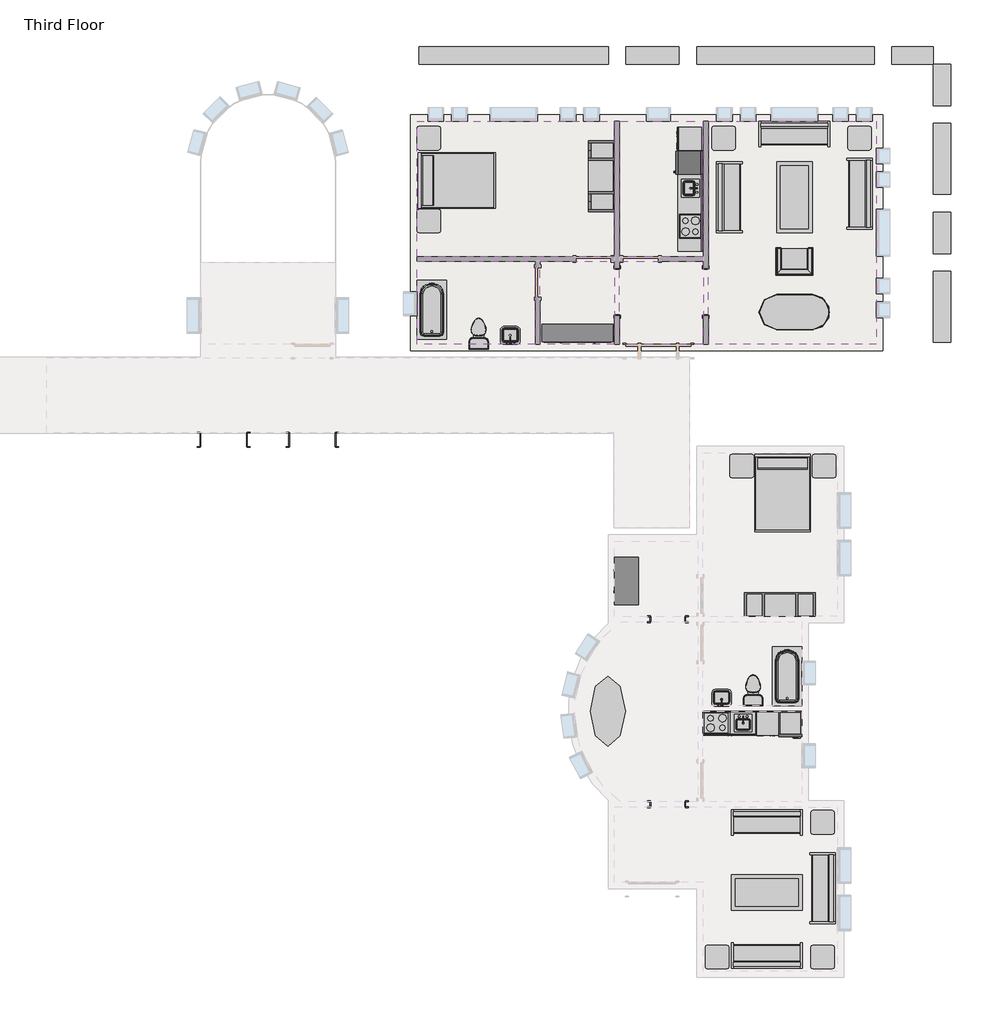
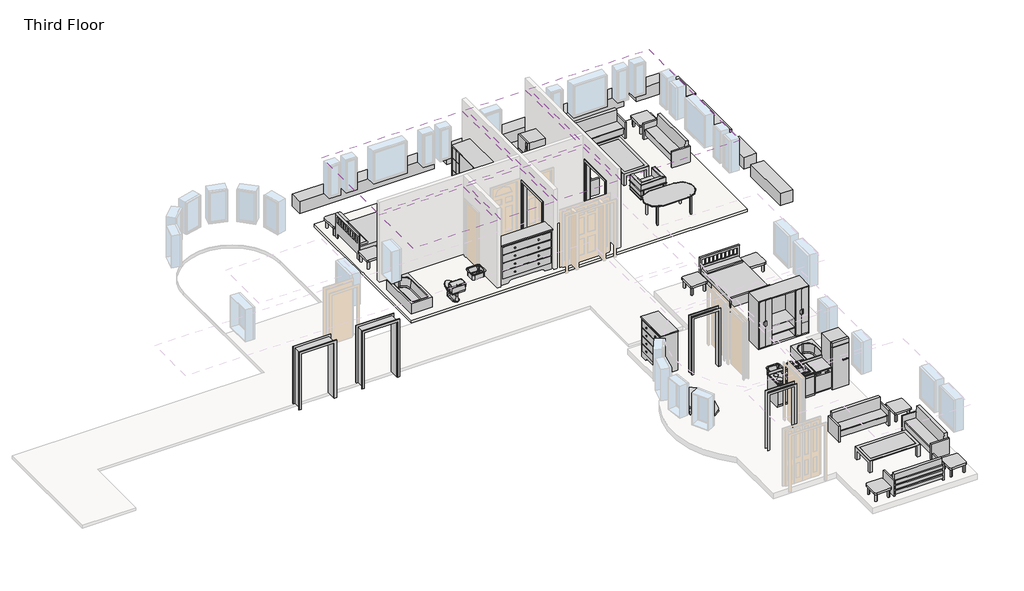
# One storey, part 2 of 2: 28 furniture elements, 14 proxies, 8 flow terminals, 6 coverings, 2 beams, 1 slab.
"""IFC4 building model written with IfcOpenShell, lengths in millimetres."""

from ifc_helpers import new_model, si_unit, frame, origin, place, context, project, spatial, polyline, outline, extrude, transform, mapped, element, save
from components import proxy_dfcd9396, proxy_3c49123c, proxy_7a545507, m_cook_top_4_unit2_0615_x_500mm_249f3515, m_dishwasher_610_x_610_x_875mm_54ecfc4c, m_kitchenette_medium_1372mm_e05c6bec, m_passage_opening_cased_0915_x_2134mm_b7ef4dee, m_refrigerator_600_x_660mm_a466bf94, proxy_f44482cc, proxy_c3589814, proxy_ec3341c2, m_sink_kitchen_island_450_x_450mm_f969cf2d, m_sink_vanity_square_500_x_440mm_1e229b74, m_toilet_domestic_3d_m_toilet_domestic_3d_5cb52bd4, m_toilet_domestic_3d_m_toilet_domestic_3d_183bbd19, m_tub_rectangular_3d_m_tub_rectangular_3d_3da3e62d, flow_terminal_41332a36, flow_terminal_62a433f7, toilet_domestic_3d_toilet_domestic_3d_f7549cf7, tub_rectangular_3d_tub_rectangular_3d_15036965, furniture_096e7f55, chair_corbu_chair_corbu_2764bdef, furniture_6db689a5, furniture_7c473f12, furniture_cf0b6580, m_counter_top_w_sink_hole_600mm_depth_08c4f679, m_dresser_1220_x_1525_x_0610mm_18e1f140, m_entertainment_center_1830_x_1830_x_0610mm_f77a9b93, m_sofa_1830mm_f9e8a66b, m_table_coffee_0915_x_1830_x_0457mm_134cd960, m_table_ellipse_1800_x_900mm_fd46d5a5, m_table_end_0610_x_0160mm_cb6ea12e, furniture_a4ffab56, furniture_cd93a443, furniture_2c34a4f9, furniture_3a588284

model = new_model("IFC4")

# Units and contexts
model_context = context("Model", 3, world=origin())
ifc_project = project(units=[si_unit("LENGTHUNIT", "METRE", prefix="MILLI")], contexts=[model_context])

# Site, building, storey
site = spatial("IfcSite", under=ifc_project)
building = spatial("IfcBuilding", under=site)
storey = spatial("IfcBuildingStorey", under=building, Name="Third Floor", Elevation=6096.0)

# Beams
placement = place(None, origin())
element("IfcBeam", 1, ObjectType="Concrete-Rectangular Beam : 18 x 18", at=placement, inside=storey, context=model_context, shape_type="SweptSolid", body=[
    extrude(outline(polyline([(2093.9410437, 12198.8316867), (2093.9410437, 11741.6316867), (1027.1410437, 11741.6316867), (1027.1410437, 12198.8316867), (2093.9410437, 12198.8316867)])), frame((0.0, 0.0, 5638.8), z_axis=(0.0, 0.0, 1.0), x_axis=(1.0, 0.0, 0.0)), (0.0, 0.0, 1.0), 457.2),
    extrude(outline(polyline([(-11164.8589563, 11741.6316867), (-11164.8589563, 12198.8316867), (-6288.0589563, 12198.8316867), (-6288.0589563, 11741.6316867), (-11164.8589563, 11741.6316867)])), frame((0.0, 0.0, 5638.8), z_axis=(0.0, 0.0, 1.0), x_axis=(1.0, 0.0, 0.0)), (0.0, 0.0, 1.0), 457.2),
    extrude(outline(polyline([(569.9410437, 12198.8316867), (569.9410437, 11741.6316867), (-4002.0589563, 11741.6316867), (-4002.0589563, 12198.8316867), (569.9410437, 12198.8316867)])), frame((0.0, 0.0, 5638.8), z_axis=(0.0, 0.0, 1.0), x_axis=(1.0, 0.0, 0.0)), (0.0, 0.0, 1.0), 457.2),
    extrude(outline(polyline([(-4459.2589563, 12198.8316867), (-4459.2589563, 11741.6316867), (-5830.8589563, 11741.6316867), (-5830.8589563, 12198.8316867), (-4459.2589563, 12198.8316867)])), frame((0.0, 0.0, 5638.8), z_axis=(0.0, 0.0, 1.0), x_axis=(1.0, 0.0, 0.0)), (0.0, 0.0, 1.0), 457.2),
])
element("IfcBeam", 2, ObjectType="Concrete-Rectangular Beam : 18 x 18", at=placement, inside=storey, context=model_context, shape_type="SweptSolid", body=[
    extrude(outline(polyline([(2093.9410437, 11741.6316867), (2551.1410437, 11741.6316867), (2551.1410437, 10674.8316867), (2093.9410437, 10674.8316867), (2093.9410437, 11741.6316867)])), frame((0.0, 0.0, 5638.8), z_axis=(0.0, 0.0, 1.0), x_axis=(1.0, 0.0, 0.0)), (0.0, 0.0, 1.0), 457.2),
    extrude(outline(polyline([(2551.1410437, 4578.8316867), (2093.9410437, 4578.8316867), (2093.9410437, 6407.6316867), (2551.1410437, 6407.6316867), (2551.1410437, 4578.8316867)])), frame((0.0, 0.0, 5638.8), z_axis=(0.0, 0.0, 1.0), x_axis=(1.0, 0.0, 0.0)), (0.0, 0.0, 1.0), 457.2),
    extrude(outline(polyline([(2093.9410437, 10217.6316867), (2551.1410437, 10217.6316867), (2551.1410437, 8388.8316867), (2093.9410437, 8388.8316867), (2093.9410437, 10217.6316867)])), frame((0.0, 0.0, 5638.8), z_axis=(0.0, 0.0, 1.0), x_axis=(1.0, 0.0, 0.0)), (0.0, 0.0, 1.0), 457.2),
    extrude(outline(polyline([(2093.9410437, 7931.6316867), (2551.1410437, 7931.6316867), (2551.1410437, 6864.8316867), (2093.9410437, 6864.8316867), (2093.9410437, 7931.6316867)])), frame((0.0, 0.0, 5638.8), z_axis=(0.0, 0.0, 1.0), x_axis=(1.0, 0.0, 0.0)), (0.0, 0.0, 1.0), 457.2),
])

# Proxies
proxy_shape = proxy_dfcd9396(model_context)
element("IfcBuildingElementProxy", 3, Name="Cook Top-4 Unit2 : 22\" x 20\"", ObjectType="Cook Top-4 Unit2 : 22\" x 20\"", at=placement, inside=storey, context=model_context, shape_type="MappedRepresentation", body=[
    mapped(proxy_shape, transform((-4167.1589563, 7568.5224391, 6096.0), x_axis=(0.0, 1.0000000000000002, 0.0), y_axis=(-1.0000000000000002, 0.0, 0.0), z_axis=(0.0, 0.0, 1.0))),
])
proxy_2_shape = proxy_3c49123c(model_context)
element("IfcBuildingElementProxy", 4, Name="Dishwasher : 24\" x 24\" x 34\"", ObjectType="Dishwasher : 24\" x 24\" x 34\"", at=placement, inside=storey, context=model_context, shape_type="MappedRepresentation", body=[
    mapped(proxy_2_shape, transform((-4459.0085211, 9434.1049706, 6096.0), x_axis=(0.0, 1.0000000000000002, 0.0), y_axis=(-1.0000000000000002, 0.0, 0.0), z_axis=(0.0, 0.0, 1.0))),
])
proxy_3_shape = proxy_7a545507(model_context)
element("IfcBuildingElementProxy", 5, Name="Kitchenette - Medium : 8'6\"", ObjectType="Kitchenette - Medium : 8'6\"", at=placement, inside=storey, context=model_context, shape_type="MappedRepresentation", body=[
    mapped(proxy_3_shape, transform((-3862.3589563, 8197.4847342, 6096.0), x_axis=(0.0, 1.0000000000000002, 0.0), y_axis=(-1.0000000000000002, 0.0, 0.0), z_axis=(0.0, 0.0, 1.0))),
])
m_cook_top_4_unit2_0615_x_500mm_shape = m_cook_top_4_unit2_0615_x_500mm_249f3515(model_context)
element("IfcBuildingElementProxy", 6, Name="M_Cook Top-4 Unit2 : 0615 x 500mm", ObjectType="M_Cook Top-4 Unit2 : 0615 x 500mm", at=placement, inside=storey, context=model_context, shape_type="MappedRepresentation", body=[
    mapped(m_cook_top_4_unit2_0615_x_500mm_shape, transform((-3495.1714563, -5234.2683133, 6096.0), x_axis=(1.0, 0.0, 0.0), y_axis=(0.0, 1.0, 0.0), z_axis=(0.0, 0.0, 1.0))),
])
m_dishwasher_610_x_610_x_875mm_shape = m_dishwasher_610_x_610_x_875mm_54ecfc4c(model_context)
element("IfcBuildingElementProxy", 7, Name="M_Dishwasher : 610 x 610 x 875mm", ObjectType="M_Dishwasher : 610 x 610 x 875mm", at=placement, inside=storey, context=model_context, shape_type="MappedRepresentation", body=[
    mapped(m_dishwasher_610_x_610_x_875mm_shape, transform((-2579.6889248, -5500.9178781, 6096.0), x_axis=(1.0, 0.0, 0.0), y_axis=(0.0, 1.0, 0.0), z_axis=(0.0, 0.0, 1.0))),
])
m_kitchenette_medium_1372mm_shape = m_kitchenette_medium_1372mm_e05c6bec(model_context)
element("IfcBuildingElementProxy", 8, Name="M_Kitchenette - Medium : 1372mm", ObjectType="M_Kitchenette - Medium : 1372mm", at=placement, inside=storey, context=model_context, shape_type="MappedRepresentation", body=[
    mapped(m_kitchenette_medium_1372mm_shape, transform((-3170.9091612, -4929.2683133, 6096.0), x_axis=(1.0, 0.0, 0.0), y_axis=(0.0, 1.0, 0.0), z_axis=(0.0, 0.0, 1.0))),
])
m_passage_opening_cased_0915_x_2134mm_shape = m_passage_opening_cased_0915_x_2134mm_b7ef4dee(model_context)
element("IfcBuildingElementProxy", 9, Name="M_Passage Opening-Cased : 0915 x 2134mm", ObjectType="M_Passage Opening-Cased : 0915 x 2134mm", at=placement, inside=storey, context=model_context, shape_type="MappedRepresentation", body=[
    mapped(m_passage_opening_cased_0915_x_2134mm_shape, transform((-4759.560113, -7332.1683133, 6096.0), x_axis=(-1.0, 0.0, 0.0), y_axis=(0.0, -1.0, 0.0), z_axis=(0.0, 0.0, 1.0))),
])
element("IfcBuildingElementProxy", 10, Name="M_Passage Opening-Cased : 0915 x 2134mm", ObjectType="M_Passage Opening-Cased : 0915 x 2134mm", at=placement, inside=storey, context=model_context, shape_type="MappedRepresentation", body=[
    mapped(m_passage_opening_cased_0915_x_2134mm_shape, transform((-4759.560113, -2560.1683133, 6096.0), x_axis=(-1.0, 0.0, 0.0), y_axis=(0.0, -1.0, 0.0), z_axis=(0.0, 0.0, 1.0))),
])
m_refrigerator_600_x_660mm_shape = m_refrigerator_600_x_660mm_a466bf94(model_context)
element("IfcBuildingElementProxy", 11, Name="M_Refrigerator : 600 x 660mm", ObjectType="M_Refrigerator : 600 x 660mm", at=placement, inside=storey, context=model_context, shape_type="MappedRepresentation", body=[
    mapped(m_refrigerator_600_x_660mm_shape, transform((-1538.3703137, -5225.4834035, 6096.0), x_axis=(1.0, 0.0, 0.0), y_axis=(0.0, 1.0, 0.0), z_axis=(0.0, 0.0, 1.0))),
])
proxy_4_shape = proxy_f44482cc(model_context)
element("IfcBuildingElementProxy", 12, Name="Opening-Cased : 48\" x 84\"", ObjectType="Opening-Cased : 48\" x 84\"", at=placement, inside=storey, context=model_context, shape_type="MappedRepresentation", body=[
    mapped(proxy_4_shape, transform((-3773.4589563, 5882.4203434, 6096.0), x_axis=(0.0, 1.0, 0.0), y_axis=(-1.0, 0.0, 0.0), z_axis=(0.0, 0.0, 1.0))),
])
element("IfcBuildingElementProxy", 13, Name="Opening-Cased : 48\" x 84\"", ObjectType="Opening-Cased : 48\" x 84\"", at=placement, inside=storey, context=model_context, shape_type="MappedRepresentation", body=[
    mapped(proxy_4_shape, transform((-6059.4589563, 5866.04303, 6096.0), x_axis=(0.0, -1.0, 0.0), y_axis=(1.0, 0.0, 0.0), z_axis=(0.0, 0.0, 1.0))),
])
proxy_5_shape = proxy_c3589814(model_context)
element("IfcBuildingElementProxy", 14, Name="Opening-Cased : 48\" x 84\"", ObjectType="Opening-Cased : 48\" x 84\"", at=placement, inside=storey, context=model_context, shape_type="MappedRepresentation", body=[
    mapped(proxy_5_shape, transform((-16213.360113, 2064.2316867, 6096.0), x_axis=(-1.0, 0.0, 0.0), y_axis=(0.0, -1.0, 0.0), z_axis=(0.0, 0.0, 1.0))),
])
element("IfcBuildingElementProxy", 15, Name="Opening-Cased : 48\" x 84\"", ObjectType="Opening-Cased : 48\" x 84\"", at=placement, inside=storey, context=model_context, shape_type="MappedRepresentation", body=[
    mapped(proxy_5_shape, transform((-13927.360113, 2064.2316867, 6096.0), x_axis=(-1.0, 0.0, 0.0), y_axis=(0.0, -1.0, 0.0), z_axis=(0.0, 0.0, 1.0))),
])
proxy_6_shape = proxy_ec3341c2(model_context)
element("IfcBuildingElementProxy", 16, Name="Refrigerator : 24\" x 25\" LH", ObjectType="Refrigerator : 24\" x 25\" LH", at=placement, inside=storey, context=model_context, shape_type="MappedRepresentation", body=[
    mapped(proxy_6_shape, transform((-4212.8079278, 9200.4724391, 6096.0), x_axis=(0.0, 1.0000000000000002, 0.0), y_axis=(-1.0000000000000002, 0.0, 0.0), z_axis=(0.0, 0.0, 1.0))),
])

# Coverings
element("IfcCovering", 17, ObjectType="GWB on Mtl. Stud", at=placement, inside=storey, context=model_context, shape_type="SweptSolid", body=[
    extrude(outline(polyline([(-11217.2464563, 10270.0191867), (-6122.9589563, 10270.0191867), (-6122.9589563, 6787.0441867), (-11217.2464563, 6787.0441867), (-11217.2464563, 10270.0191867)])), frame((0.0, 0.0, 8686.8), z_axis=(0.0, 0.0, 1.0), x_axis=(1.0, 0.0, 0.0)), (0.0, 0.0, 1.0), 107.95),
])
element("IfcCovering", 18, ObjectType="GWB on Mtl. Stud", at=placement, inside=storey, context=model_context, shape_type="SweptSolid", body=[
    extrude(outline(polyline([(-5995.9589563, 6787.0441867), (-5995.9589563, 10270.0191867), (-3836.9589563, 10270.0191867), (-3836.9589563, 6787.0441867), (-5995.9589563, 6787.0441867)])), frame((0.0, 0.0, 8686.8), z_axis=(0.0, 0.0, 1.0), x_axis=(1.0, 0.0, 0.0)), (0.0, 0.0, 1.0), 107.95),
])
element("IfcCovering", 19, ObjectType="GWB on Mtl. Stud", at=placement, inside=storey, context=model_context, shape_type="SweptSolid", body=[
    extrude(outline(polyline([(-3709.9589563, 4526.4441867), (-3709.9589563, 10270.0191867), (622.3285437, 10270.0191867), (622.3285437, 4526.4441867), (-3709.9589563, 4526.4441867)])), frame((0.0, 0.0, 8686.8), z_axis=(0.0, 0.0, 1.0), x_axis=(1.0, 0.0, 0.0)), (0.0, 0.0, 1.0), 107.95),
])
element("IfcCovering", 20, ObjectType="GWB on Mtl. Stud", at=placement, inside=storey, context=model_context, shape_type="SweptSolid", body=[
    extrude(outline(polyline([(-3836.9589563, 4526.4441867), (-5995.9589563, 4526.4441867), (-5995.9589563, 6660.0441867), (-3836.9589563, 6660.0441867), (-3836.9589563, 4526.4441867)])), frame((0.0, 0.0, 8686.8), z_axis=(0.0, 0.0, 1.0), x_axis=(1.0, 0.0, 0.0)), (0.0, 0.0, 1.0), 107.95),
])
element("IfcCovering", 21, ObjectType="GWB on Mtl. Stud", at=placement, inside=storey, context=model_context, shape_type="SweptSolid", body=[
    extrude(outline(polyline([(-8169.2464563, 6660.0441867), (-8169.2464563, 4526.4441867), (-11217.2464563, 4526.4441867), (-11217.2464563, 6660.0441867), (-8169.2464563, 6660.0441867)])), frame((0.0, 0.0, 8686.8), z_axis=(0.0, 0.0, 1.0), x_axis=(1.0, 0.0, 0.0)), (0.0, 0.0, 1.0), 107.95),
])
element("IfcCovering", 22, ObjectType="GWB on Mtl. Stud", at=placement, inside=storey, context=model_context, shape_type="SweptSolid", body=[
    extrude(outline(polyline([(-6122.9589563, 4526.4441867), (-8042.2464563, 4526.4441867), (-8042.2464563, 6660.0441867), (-6122.9589563, 6660.0441867), (-6122.9589563, 4526.4441867)])), frame((0.0, 0.0, 8686.8), z_axis=(0.0, 0.0, 1.0), x_axis=(1.0, 0.0, 0.0)), (0.0, 0.0, 1.0), 107.95),
])

# Flow terminals
m_sink_kitchen_island_450_x_450mm_shape = m_sink_kitchen_island_450_x_450mm_f969cf2d(model_context)
element("IfcFlowTerminal", 23, ObjectType="M_Sink Kitchen-Island : 450 x 450mm", at=placement, inside=storey, context=model_context, shape_type="MappedRepresentation", body=[
    mapped(m_sink_kitchen_island_450_x_450mm_shape, transform((-2824.8606969, -5236.6137144, 6096.0), x_axis=(1.0, 0.0, 0.0), y_axis=(0.0, 1.0, 0.0), z_axis=(0.0, 0.0, 1.0))),
])
m_sink_vanity_square_500_x_440mm_shape = m_sink_vanity_square_500_x_440mm_1e229b74(model_context)
element("IfcFlowTerminal", 24, ObjectType="M_Sink Vanity-Square : 500 x 440mm", at=placement, inside=storey, context=model_context, shape_type="MappedRepresentation", body=[
    mapped(m_sink_vanity_square_500_x_440mm_shape, transform((-3349.2572157, -4621.7229122, 6096.0), x_axis=(-1.0, 0.0, 0.0), y_axis=(0.0, -1.0, 0.0), z_axis=(0.0, 0.0, 1.0))),
])
m_toilet_domestic_3d_m_toilet_domestic_3d_shape = m_toilet_domestic_3d_m_toilet_domestic_3d_5cb52bd4(model_context)
m_toilet_domestic_3d_m_toilet_domestic_3d_2_shape = m_toilet_domestic_3d_m_toilet_domestic_3d_183bbd19(model_context)
element("IfcFlowTerminal", 25, ObjectType="M_Toilet-Domestic-3D : M_Toilet-Domestic-3D", at=placement, inside=storey, context=model_context, shape_type="MappedRepresentation", body=[
    mapped(m_toilet_domestic_3d_m_toilet_domestic_3d_shape, transform((-2552.025429, -4299.072286, 6096.0), x_axis=(-1.0, 0.0, 0.0), y_axis=(0.0, -1.0, 0.0), z_axis=(0.0, 0.0, 1.0))),
    mapped(m_toilet_domestic_3d_m_toilet_domestic_3d_2_shape, transform((-2552.025429, -4299.072286, 6096.0), x_axis=(-1.0, 0.0, 0.0), y_axis=(0.0, -1.0, 0.0), z_axis=(0.0, 0.0, 1.0))),
])
m_tub_rectangular_3d_m_tub_rectangular_3d_shape = m_tub_rectangular_3d_m_tub_rectangular_3d_3da3e62d(model_context)
element("IfcFlowTerminal", 26, ObjectType="M_Tub-Rectangular-3D : M_Tub-Rectangular-3D", at=placement, inside=storey, context=model_context, shape_type="MappedRepresentation", body=[
    mapped(m_tub_rectangular_3d_m_tub_rectangular_3d_shape, transform((-1117.5714563, -3683.1653446, 6096.0), x_axis=(0.0, 1.0, 0.0), y_axis=(-1.0, 0.0, 0.0), z_axis=(0.0, 0.0, 1.0))),
])
flow_terminal_shape = flow_terminal_41332a36(model_context)
element("IfcFlowTerminal", 27, ObjectType="Sink Kitchen-Island : 18\" x 18\"", at=placement, inside=storey, context=model_context, shape_type="MappedRepresentation", body=[
    mapped(flow_terminal_shape, transform((-4169.5043574, 8530.7331986, 6081.6), x_axis=(0.0, 1.0000000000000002, 0.0), y_axis=(-1.0000000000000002, 0.0, 0.0), z_axis=(0.0, 0.0, 1.0))),
])
flow_terminal_2_shape = flow_terminal_62a433f7(model_context)
element("IfcFlowTerminal", 28, ObjectType="Sink Vanity-Square : 20\" x 18\"", at=placement, inside=storey, context=model_context, shape_type="MappedRepresentation", body=[
    mapped(flow_terminal_2_shape, transform((-8801.2572158, 4706.5895878, 6096.0), x_axis=(-1.0, 0.0, 0.0), y_axis=(0.0, -1.0, 0.0), z_axis=(0.0, 0.0, 1.0))),
])
toilet_domestic_3d_toilet_domestic_3d_shape = toilet_domestic_3d_toilet_domestic_3d_f7549cf7(model_context)
element("IfcFlowTerminal", 29, ObjectType="Toilet-Domestic-3D : Toilet-Domestic-3D", at=placement, inside=storey, context=model_context, shape_type="MappedRepresentation", body=[
    mapped(toilet_domestic_3d_toilet_domestic_3d_shape, transform((-9629.7464563, 4894.7441867, 6096.0), x_axis=(-1.0, 0.0, 0.0), y_axis=(0.0, -1.0, 0.0), z_axis=(0.0, 0.0, 1.0))),
    mapped(m_toilet_domestic_3d_m_toilet_domestic_3d_2_shape, transform((-9629.7464563, 4894.7441867, 6096.0), x_axis=(-1.0, 0.0, 0.0), y_axis=(0.0, -1.0, 0.0), z_axis=(0.0, 0.0, 1.0))),
])
tub_rectangular_3d_tub_rectangular_3d_shape = tub_rectangular_3d_tub_rectangular_3d_15036965(model_context)
element("IfcFlowTerminal", 30, ObjectType="Tub-Rectangular-3D : Tub-Rectangular-3D", at=placement, inside=storey, context=model_context, shape_type="MappedRepresentation", body=[
    mapped(tub_rectangular_3d_tub_rectangular_3d_shape, transform((-11393.4589563, 5765.6346554, 6096.0), x_axis=(0.0, 1.0, 0.0), y_axis=(-1.0, 0.0, 0.0), z_axis=(0.0, 0.0, 1.0))),
])

# Furniture
furniture_shape = furniture_096e7f55(model_context)
element("IfcFurniture", 31, ObjectType="Bed-Shaker : Double 56\" x 78\"", at=placement, inside=storey, context=model_context, shape_type="MappedRepresentation", body=[
    mapped(furniture_shape, transform((-11172.0857802, 8763.4816867, 6096.0), x_axis=(0.0, 1.0, 0.0), y_axis=(-1.0, 0.0, 0.0), z_axis=(0.0, 0.0, 1.0))),
])
chair_corbu_chair_corbu_shape = chair_corbu_chair_corbu_2764bdef(model_context)
element("IfcFurniture", 32, ObjectType="Chair-Corbu : Chair-Corbu", at=placement, inside=storey, context=model_context, shape_type="MappedRepresentation", body=[
    mapped(chair_corbu_chair_corbu_shape, transform((-914.0851858, 7126.8212359, 6096.0), x_axis=(-1.0, 0.0, 0.0), y_axis=(0.0, -1.0, 0.0), z_axis=(0.0, 0.0, 1.0))),
])
furniture_2_shape = furniture_6db689a5(model_context)
element("IfcFurniture", 33, ObjectType="Counter Top w Sink Hole : 24\" Depth", at=placement, inside=storey, context=model_context, shape_type="MappedRepresentation", body=[
    mapped(furniture_2_shape, transform((-3862.3589563, 8121.2847342, 6081.6), x_axis=(0.0, 1.0000000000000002, 0.0), y_axis=(-1.0000000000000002, 0.0, 0.0), z_axis=(0.0, 0.0, 1.0))),
])
furniture_3_shape = furniture_7c473f12(model_context)
element("IfcFurniture", 34, ObjectType="Dresser : 72\" x 60\" x 18\"", at=placement, inside=storey, context=model_context, shape_type="MappedRepresentation", body=[
    mapped(furniture_3_shape, transform((-6806.2656965, 5181.7071408, 6096.0), x_axis=(1.0, 0.0, 0.0), y_axis=(0.0, 1.0, 0.0), z_axis=(0.0, 0.0, 1.0))),
])
furniture_4_shape = furniture_cf0b6580(model_context)
element("IfcFurniture", 35, ObjectType="Entertainment Center : 72\" x 72\" x 24\"", at=placement, inside=storey, context=model_context, shape_type="MappedRepresentation", body=[
    mapped(furniture_4_shape, transform((-6021.3589563, 8857.1441867, 6096.0), x_axis=(0.0, -1.0, 0.0), y_axis=(1.0, 0.0, 0.0), z_axis=(0.0, 0.0, 1.0))),
])
element("IfcFurniture", 36, ObjectType="M_Bed-Shaker : 1422 x 1981mm - Double", at=placement, inside=storey, context=model_context, shape_type="MappedRepresentation", body=[
    mapped(furniture_shape, transform((-1770.3214563, 1676.8316867, 6096.0), x_axis=(1.0, 0.0, 0.0), y_axis=(0.0, 1.0, 0.0), z_axis=(0.0, 0.0, 1.0))),
])
m_counter_top_w_sink_hole_600mm_depth_shape = m_counter_top_w_sink_hole_600mm_depth_08c4f679(model_context)
element("IfcFurniture", 37, ObjectType="M_Counter Top w Sink Hole : 600mm Depth", at=placement, inside=storey, context=model_context, shape_type="MappedRepresentation", body=[
    mapped(m_counter_top_w_sink_hole_600mm_depth_shape, transform((-2637.7091612, -4929.2683133, 6096.0), x_axis=(1.0, 0.0, 0.0), y_axis=(0.0, 1.0, 0.0), z_axis=(0.0, 0.0, 1.0))),
])
m_dresser_1220_x_1525_x_0610mm_shape = m_dresser_1220_x_1525_x_0610mm_18e1f140(model_context)
element("IfcFurniture", 38, ObjectType="M_Dresser : 1220 x 1525 x 0610mm", at=placement, inside=storey, context=model_context, shape_type="MappedRepresentation", body=[
    mapped(m_dresser_1220_x_1525_x_0610mm_shape, transform((-5456.0085022, -1844.3615731, 6096.0), x_axis=(0.0, -1.0, 0.0), y_axis=(1.0, 0.0, 0.0), z_axis=(0.0, 0.0, 1.0))),
])
m_entertainment_center_1830_x_1830_x_0610mm_shape = m_entertainment_center_1830_x_1830_x_0610mm_f77a9b93(model_context)
element("IfcFurniture", 39, ObjectType="M_Entertainment center : 1830 x 1830 x 0610mm", at=placement, inside=storey, context=model_context, shape_type="MappedRepresentation", body=[
    mapped(m_entertainment_center_1830_x_1830_x_0610mm_shape, transform((-1857.5714563, -1773.7683133, 6096.0), x_axis=(1.0, 0.0, 0.0), y_axis=(0.0, 1.0, 0.0), z_axis=(0.0, 0.0, 1.0))),
])
m_sofa_1830mm_shape = m_sofa_1830mm_f9e8a66b(model_context)
element("IfcFurniture", 40, ObjectType="M_Sofa : 1830mm", at=placement, inside=storey, context=model_context, shape_type="MappedRepresentation", body=[
    mapped(m_sofa_1830mm_shape, transform((-909.3255547, -9428.7978215, 6096.0), x_axis=(0.0, -1.0, 0.0), y_axis=(1.0, 0.0, 0.0), z_axis=(0.0, 0.0, 1.0))),
])
element("IfcFurniture", 41, ObjectType="M_Sofa : 1830mm", at=placement, inside=storey, context=model_context, shape_type="MappedRepresentation", body=[
    mapped(m_sofa_1830mm_shape, transform((-2268.5419481, -7946.0724117, 6096.0), x_axis=(1.0, 0.0, 0.0), y_axis=(0.0, 1.0, 0.0), z_axis=(0.0, 0.0, 1.0))),
])
element("IfcFurniture", 42, ObjectType="M_Sofa : 1830mm", at=placement, inside=storey, context=model_context, shape_type="MappedRepresentation", body=[
    mapped(m_sofa_1830mm_shape, transform((-2127.8009645, -11083.014215, 6096.0), x_axis=(-1.0, 0.0, 0.0), y_axis=(0.0, -1.0, 0.0), z_axis=(0.0, 0.0, 1.0))),
])
m_table_coffee_0915_x_1830_x_0457mm_shape = m_table_coffee_0915_x_1830_x_0457mm_134cd960(model_context)
element("IfcFurniture", 43, ObjectType="M_Table-Coffee : 0915 x 1830 x 0457mm", at=placement, inside=storey, context=model_context, shape_type="MappedRepresentation", body=[
    mapped(m_table_coffee_0915_x_1830_x_0457mm_shape, transform((-2216.437223, -9695.1293911, 6096.0), x_axis=(1.0, 0.0, 0.0), y_axis=(0.0, 1.0, 0.0), z_axis=(0.0, 0.0, 1.0))),
])
m_table_ellipse_1800_x_900mm_shape = m_table_ellipse_1800_x_900mm_fd46d5a5(model_context)
element("IfcFurniture", 44, ObjectType="M_Table-Ellipse : 1800 x 900mm", at=placement, inside=storey, context=model_context, shape_type="MappedRepresentation", body=[
    mapped(m_table_ellipse_1800_x_900mm_shape, transform((-6299.1714563, -4929.2683133, 6096.0), x_axis=(0.0, -1.0, 0.0), y_axis=(1.0, 0.0, 0.0), z_axis=(0.0, 0.0, 1.0))),
])
m_table_end_0610_x_0160mm_shape = m_table_end_0610_x_0160mm_cb6ea12e(model_context)
element("IfcFurniture", 45, ObjectType="M_Table-End : 0610 x 0160mm", at=placement, inside=storey, context=model_context, shape_type="MappedRepresentation", body=[
    mapped(m_table_end_0610_x_0160mm_shape, transform((-875.5714563, 1701.315317, 6096.0), x_axis=(0.0, -1.0, 0.0), y_axis=(1.0, 0.0, 0.0), z_axis=(0.0, 0.0, 1.0))),
])
element("IfcFurniture", 46, ObjectType="M_Table-End : 0610 x 0160mm", at=placement, inside=storey, context=model_context, shape_type="MappedRepresentation", body=[
    mapped(m_table_end_0610_x_0160mm_shape, transform((-2995.5714563, 1701.315317, 6096.0), x_axis=(0.0, -1.0, 0.0), y_axis=(1.0, 0.0, 0.0), z_axis=(0.0, 0.0, 1.0))),
])
element("IfcFurniture", 47, ObjectType="M_Table-End : 0610 x 0160mm", at=placement, inside=storey, context=model_context, shape_type="MappedRepresentation", body=[
    mapped(m_table_end_0610_x_0160mm_shape, transform((-915.5714563, -7485.434683, 6096.0), x_axis=(0.0, -1.0, 0.0), y_axis=(1.0, 0.0, 0.0), z_axis=(0.0, 0.0, 1.0))),
])
element("IfcFurniture", 48, ObjectType="M_Table-End : 0610 x 0160mm", at=placement, inside=storey, context=model_context, shape_type="MappedRepresentation", body=[
    mapped(m_table_end_0610_x_0160mm_shape, transform((-915.5714563, -10955.434683, 6096.0), x_axis=(0.0, -1.0, 0.0), y_axis=(1.0, 0.0, 0.0), z_axis=(0.0, 0.0, 1.0))),
])
element("IfcFurniture", 49, ObjectType="M_Table-End : 0610 x 0160mm", at=placement, inside=storey, context=model_context, shape_type="MappedRepresentation", body=[
    mapped(m_table_end_0610_x_0160mm_shape, transform((-3635.5714563, -10955.434683, 6096.0), x_axis=(0.0, -1.0, 0.0), y_axis=(1.0, 0.0, 0.0), z_axis=(0.0, 0.0, 1.0))),
])
furniture_5_shape = furniture_a4ffab56(model_context)
element("IfcFurniture", 50, ObjectType="Sofa : 72\"", at=placement, inside=storey, context=model_context, shape_type="MappedRepresentation", body=[
    mapped(furniture_5_shape, transform((-3017.704858, 8242.2611949, 6096.0), x_axis=(0.0, 1.0, 0.0), y_axis=(-1.0, 0.0, 0.0), z_axis=(0.0, 0.0, 1.0))),
])
element("IfcFurniture", 51, ObjectType="Sofa : 72\"", at=placement, inside=storey, context=model_context, shape_type="MappedRepresentation", body=[
    mapped(furniture_5_shape, transform((-1557.8294481, 9801.5748071, 6096.0), x_axis=(1.0, 0.0, 0.0), y_axis=(0.0, 1.0, 0.0), z_axis=(0.0, 0.0, 1.0))),
])
element("IfcFurniture", 52, ObjectType="Sofa : 72\"", at=placement, inside=storey, context=model_context, shape_type="MappedRepresentation", body=[
    mapped(furniture_5_shape, transform((42.7869453, 8470.3146785, 6096.0), x_axis=(0.0, -1.0, 0.0), y_axis=(1.0, 0.0, 0.0), z_axis=(0.0, 0.0, 1.0))),
])
furniture_6_shape = furniture_cd93a443(model_context)
element("IfcFurniture", 53, ObjectType="Table-Coffee : 36\" x 72\" x 18\"", at=placement, inside=storey, context=model_context, shape_type="MappedRepresentation", body=[
    mapped(furniture_6_shape, transform((-1392.2478785, 8294.36592, 6096.0), x_axis=(0.0, 1.0, 0.0), y_axis=(-1.0, 0.0, 0.0), z_axis=(0.0, 0.0, 1.0))),
])
furniture_7_shape = furniture_2c34a4f9(model_context)
element("IfcFurniture", 54, ObjectType="Table-Dining Oval : 36\" x 72\"", at=placement, inside=storey, context=model_context, shape_type="MappedRepresentation", body=[
    mapped(furniture_7_shape, transform((-1085.6392842, 5710.0425473, 6096.0), x_axis=(1.0, 0.0, 0.0), y_axis=(0.0, 1.0, 0.0), z_axis=(0.0, 0.0, 1.0))),
])
furniture_8_shape = furniture_3a588284(model_context)
element("IfcFurniture", 55, ObjectType="Table-End : 24\" x 24\"", at=placement, inside=storey, context=model_context, shape_type="MappedRepresentation", body=[
    mapped(furniture_8_shape, transform((-119.5925866, 9684.2316867, 6096.0), x_axis=(1.0, 0.0, 0.0), y_axis=(0.0, 1.0, 0.0), z_axis=(0.0, 0.0, 1.0))),
])
element("IfcFurniture", 56, ObjectType="Table-End : 24\" x 24\"", at=placement, inside=storey, context=model_context, shape_type="MappedRepresentation", body=[
    mapped(furniture_8_shape, transform((-11220.9800866, 7550.6316867, 6096.0), x_axis=(1.0, 0.0, 0.0), y_axis=(0.0, 1.0, 0.0), z_axis=(0.0, 0.0, 1.0))),
])
element("IfcFurniture", 57, ObjectType="Table-End : 24\" x 24\"", at=placement, inside=storey, context=model_context, shape_type="MappedRepresentation", body=[
    mapped(furniture_8_shape, transform((-11220.9800866, 9684.2316867, 6096.0), x_axis=(1.0, 0.0, 0.0), y_axis=(0.0, 1.0, 0.0), z_axis=(0.0, 0.0, 1.0))),
])
element("IfcFurniture", 58, ObjectType="Table-End : 24\" x 24\"", at=placement, inside=storey, context=model_context, shape_type="MappedRepresentation", body=[
    mapped(furniture_8_shape, transform((-3624.7925866, 9684.2316867, 6096.0), x_axis=(1.0, 0.0, 0.0), y_axis=(0.0, 1.0, 0.0), z_axis=(0.0, 0.0, 1.0))),
])

# Slab
element("IfcSlab", 59, ObjectType="LW Concrete on Metal Deck", at=placement, inside=storey, context=model_context, shape_type="SweptSolid", body=[
    extrude(outline(polyline([(787.4285437, 10435.1191867), (787.4285437, 4361.3441867), (-11382.3464563, 4361.3441867), (-11382.3464563, 10435.1191867), (787.4285437, 10435.1191867)])), frame((0.0, 0.0, 5991.225), z_axis=(0.0, 0.0, 1.0), x_axis=(1.0, 0.0, 0.0)), (0.0, 0.0, 1.0), 104.775),
])

save(model, "model.ifc")
